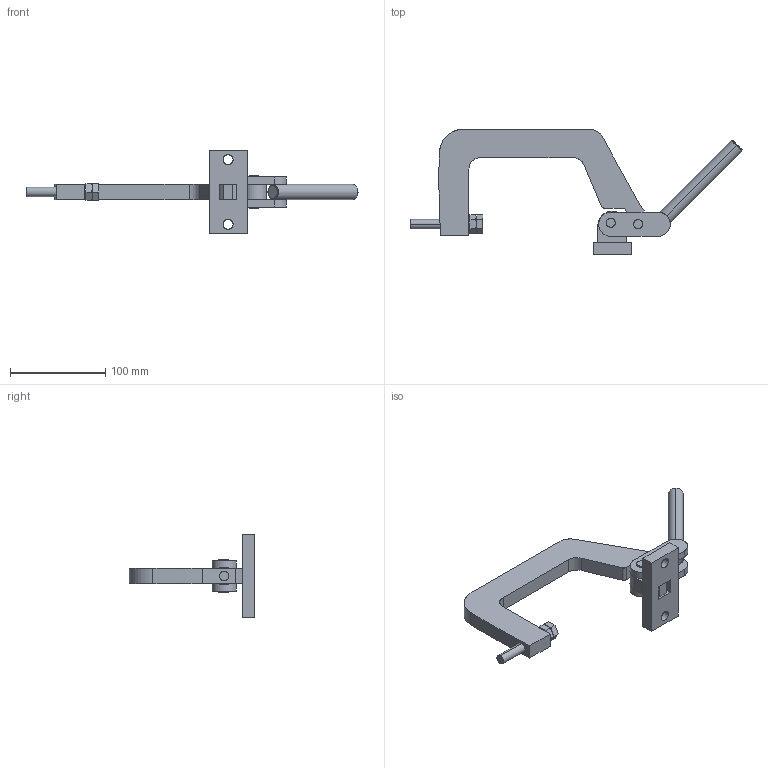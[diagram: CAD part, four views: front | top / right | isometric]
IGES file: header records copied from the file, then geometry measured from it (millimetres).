
Start section: SolidWorks IGES file using analytic representation for surfaces
Global section: file name: G:\Grampos\KF-035 100\KF-035 100.IGS; native system: SolidWorks 2018; preprocessor: SolidWorks 2018; author: Ricardo.Sandi; date: 190111.094739; units: millimetre
Bounding box: 349.13 x 132.2 x 88 mm (x, y, z)
Surface area: 72176.8 mm2 (no closed solid volume)
Topology: 0 solids, 0 shells, 120 faces, 1950 edges, 1950 vertices
Faces by surface type: bspline 64, revolution 56
